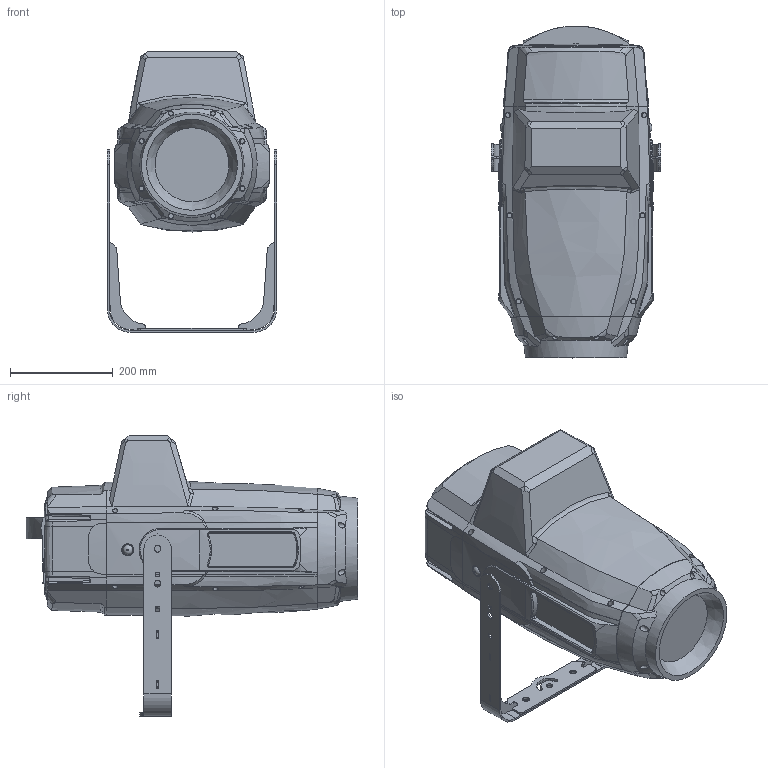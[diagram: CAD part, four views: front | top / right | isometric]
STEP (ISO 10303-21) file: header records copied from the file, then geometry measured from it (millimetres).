
FILE_DESCRIPTION(/* description */ ('Unknown'),/* implementation_level */ '2;1');
FILE_NAME(/* name */ '3D_Robin iT12',/* time_stamp */ '2023-11-06T07:35:36+01:00',/* author */ ('Unknown'),/* organization */ ('Unknown'),/* preprocessor_version */ 'ST-DEVELOPER v18.104',/* originating_system */ 'Solid Edge',/* authorisation */ 'Unknown');
FILE_SCHEMA (('AUTOMOTIVE_DESIGN {1 0 10303 214 3 1 1}'));
Products named in the file (8): Robin iT12; objektiv Profile iT12; Bok iT21; 11031148 Z醰靤 iT12 sva鴈n齙oa_0; 11018796 Z嫛鮀 iT12_oa_1; 11018822 Výztuha závìsu; 11019003 Podložka závìsu
Assembly tree (9 placements, depth 3):
  Robin iT12
    Robin iT12
    objektiv Profile iT12
    Bok iT21  x2
    11031148 Z醰靤 iT12 sva鴈n齙oa_0
      11018796 Z嫛鮀 iT12_oa_1
      11018822 Výztuha závìsu  x2
      11019003 Podložka závìsu
Bounding box: 329 x 646.04 x 546 mm (x, y, z)
Volume: 59088997.3 mm3; surface area: 2367527.9 mm2
Topology: 9 solids, 9 shells, 916 faces, 2458 edges, 1611 vertices
Faces by surface type: bspline 374, plane 334, cylinder 125, cone 71, torus 12
Full cylindrical faces by diameter (mm): 12.9 x4, 13 x6
Entity records: 41436 total; most frequent: CARTESIAN_POINT 24106, ORIENTED_EDGE 4214, DIRECTION 2375, EDGE_CURVE 2107, VERTEX_POINT 1405, B_SPLINE_CURVE_WITH_KNOTS 1104, EDGE_LOOP 968, FACE_BOUND 968
